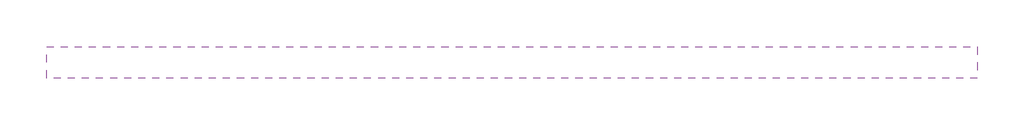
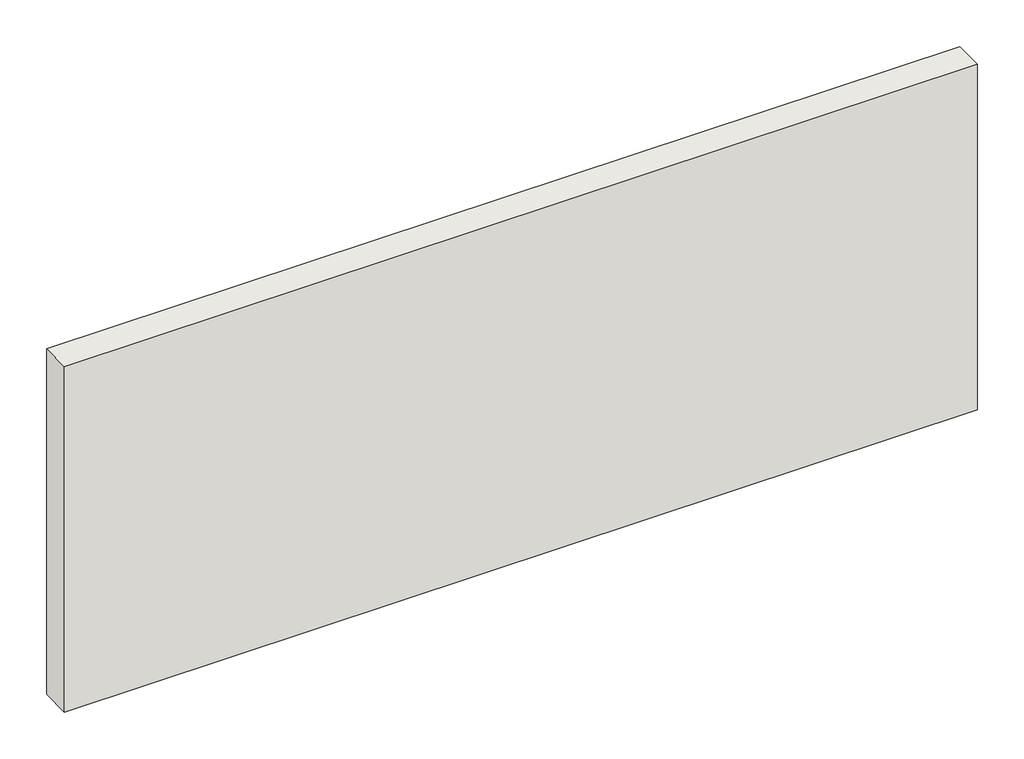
# One storey: 1 wall.
"""IFC4 building model written with IfcOpenShell, lengths in millimetres."""

from ifc_helpers import new_model, si_unit, frame, origin, place, context, project, spatial, polyline, outline, extrude, element, save

model = new_model("IFC4")

# Units and contexts
model_context = context("Model", 3, world=origin())
ifc_project = project(units=[si_unit("LENGTHUNIT", "METRE", prefix="MILLI")], contexts=[model_context])

# Site, building, storey
site = spatial("IfcSite", under=ifc_project)
building = spatial("IfcBuilding", under=site)
storey = spatial("IfcBuildingStorey", under=building, Name="TPFYY/15-12-60-12", Elevation=0.0)

# Wall
placement = place(None, origin())
element("IfcWall", 1, ObjectType="Construction_Thermochip_WALL_TPFYY/ 15-12-60-12 (3000 X 1200)", at=placement, inside=storey, context=model_context, shape_type="SweptSolid", body=[
    extrude(outline(polyline([(48216.6663638, -56238.1444819), (45216.6663638, -56238.1444819), (45216.6663638, -56136.1444819), (48216.6663638, -56136.1444819), (48216.6663638, -56238.1444819)])), frame((0.0, 0.0, 2800.0), z_axis=(0.0, 0.0, 1.0), x_axis=(1.0, 0.0, 0.0)), (0.0, 0.0, 1.0), 1200.0),
])

save(model, "model.ifc")
